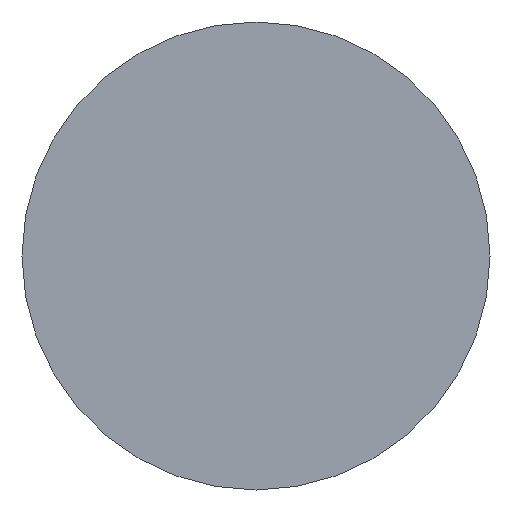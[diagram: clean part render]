
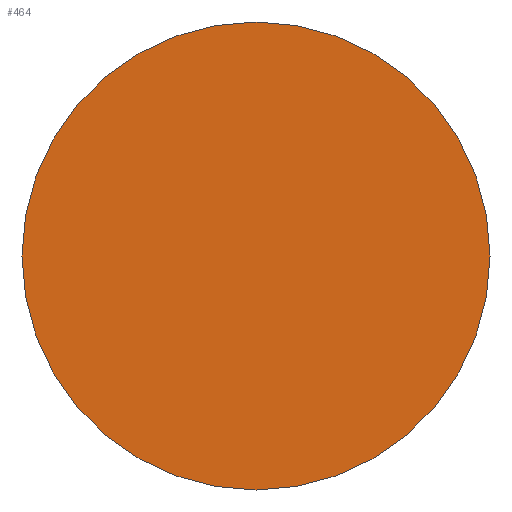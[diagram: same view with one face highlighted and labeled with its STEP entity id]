
A CAD part, left-side view. The second image highlights one B-rep face of the part: STEP entity #464.
In plain terms, the highlighted planar face has unit normal (-1, 0, 0).
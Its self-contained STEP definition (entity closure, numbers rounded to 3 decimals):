
#16=PLANE('',#533);
#42=FACE_OUTER_BOUND('',#65,.T.);
#65=EDGE_LOOP('',(#362,#363));
#136=CIRCLE('',#534,4.);
#137=CIRCLE('',#535,4.);
#193=VERTEX_POINT('',#830);
#194=VERTEX_POINT('',#831);
#256=EDGE_CURVE('',#193,#194,#136,.T.);
#257=EDGE_CURVE('',#194,#193,#137,.T.);
#362=ORIENTED_EDGE('',*,*,#256,.F.);
#363=ORIENTED_EDGE('',*,*,#257,.F.);
#464=ADVANCED_FACE('',(#42),#16,.T.);
#533=AXIS2_PLACEMENT_3D('',#829,#660,#661);
#534=AXIS2_PLACEMENT_3D('',#832,#662,#663);
#535=AXIS2_PLACEMENT_3D('',#833,#664,#665);
#660=DIRECTION('center_axis',(-1.,0.,0.));
#661=DIRECTION('ref_axis',(0.,0.,1.));
#662=DIRECTION('center_axis',(1.,0.,0.));
#663=DIRECTION('ref_axis',(0.,0.,-1.));
#664=DIRECTION('center_axis',(1.,0.,0.));
#665=DIRECTION('ref_axis',(0.,0.,-1.));
#829=CARTESIAN_POINT('Origin',(0.,4.,0.));
#830=CARTESIAN_POINT('',(0.,4.,0.));
#831=CARTESIAN_POINT('',(0.,-4.,0.));
#832=CARTESIAN_POINT('Origin',(0.,0.,0.));
#833=CARTESIAN_POINT('Origin',(0.,0.,0.));
